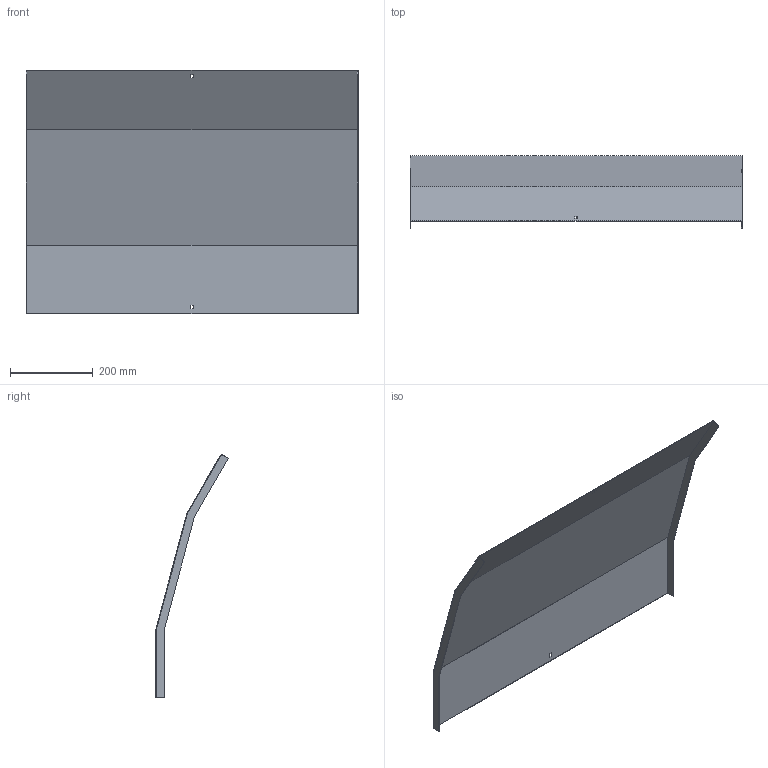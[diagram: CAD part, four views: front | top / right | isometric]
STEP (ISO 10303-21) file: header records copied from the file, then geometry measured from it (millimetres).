
FILE_DESCRIPTION (( 'STEP AP214' ), '1' );
FILE_NAME ('35N5D800.step', '2025-02-21T10:29:22', ( '' ), ( '' ), 'SwSTEP 2.0', 'SolidWorks 2023', '' );
FILE_SCHEMA (( 'AUTOMOTIVE_DESIGN' ));
Length unit declared in the file: millimetre
Products named in the file (1): 35N5D800
Bounding box: 803 x 175.26 x 589.45 mm (x, y, z)
Volume: 782165.2 mm3; surface area: 1047334.1 mm2
Topology: 1 solids, 1 shells, 26 faces, 72 edges, 48 vertices
Faces by surface type: plane 26
Entity records: 847 total; most frequent: CARTESIAN_POINT 147, ORIENTED_EDGE 144, DIRECTION 126, VECTOR 72, EDGE_CURVE 72, LINE 72, VERTEX_POINT 48, EDGE_LOOP 30
